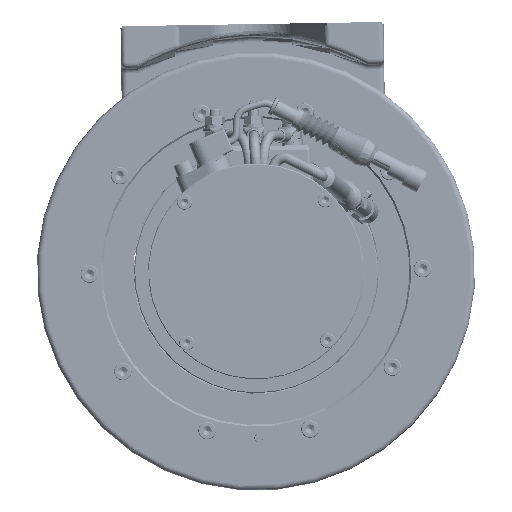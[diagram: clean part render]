
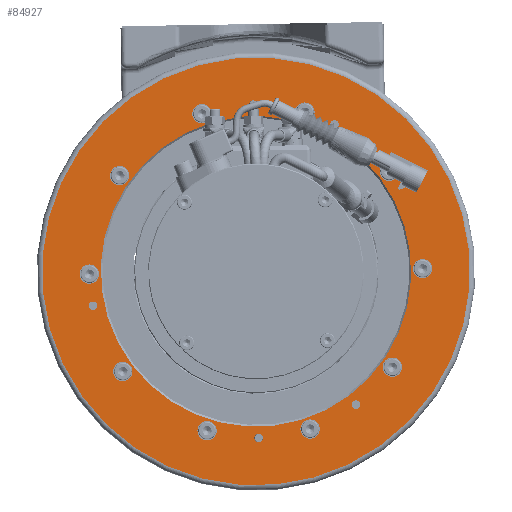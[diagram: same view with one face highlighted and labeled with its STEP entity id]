
A CAD part, front view. The second image highlights one B-rep face of the part: STEP entity #84927.
In plain terms, the highlighted planar face has unit normal (0, -1, 0).
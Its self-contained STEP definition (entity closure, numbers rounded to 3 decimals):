
#2087=FACE_BOUND('',#29443,.T.);
#2088=FACE_BOUND('',#29444,.T.);
#2089=FACE_BOUND('',#29445,.T.);
#2090=FACE_BOUND('',#29446,.T.);
#2091=FACE_BOUND('',#29447,.T.);
#2092=FACE_BOUND('',#29448,.T.);
#2093=FACE_BOUND('',#29449,.T.);
#2094=FACE_BOUND('',#29450,.T.);
#2095=FACE_BOUND('',#29451,.T.);
#2096=FACE_BOUND('',#29452,.T.);
#2097=FACE_BOUND('',#29453,.T.);
#2098=FACE_BOUND('',#29454,.T.);
#2099=FACE_BOUND('',#29455,.T.);
#2100=FACE_BOUND('',#29456,.T.);
#2101=FACE_BOUND('',#29457,.T.);
#2102=FACE_BOUND('',#29458,.T.);
#4856=PLANE('',#92812);
#24260=FACE_OUTER_BOUND('',#29442,.T.);
#29442=EDGE_LOOP('',(#75526));
#29443=EDGE_LOOP('',(#75527));
#29444=EDGE_LOOP('',(#75528));
#29445=EDGE_LOOP('',(#75529));
#29446=EDGE_LOOP('',(#75530));
#29447=EDGE_LOOP('',(#75531));
#29448=EDGE_LOOP('',(#75532));
#29449=EDGE_LOOP('',(#75533));
#29450=EDGE_LOOP('',(#75534));
#29451=EDGE_LOOP('',(#75535));
#29452=EDGE_LOOP('',(#75536));
#29453=EDGE_LOOP('',(#75537));
#29454=EDGE_LOOP('',(#75538));
#29455=EDGE_LOOP('',(#75539));
#29456=EDGE_LOOP('',(#75540));
#29457=EDGE_LOOP('',(#75541));
#29458=EDGE_LOOP('',(#75542));
#33190=CIRCLE('',#92761,122.);
#33194=CIRCLE('',#92768,2.5);
#33197=CIRCLE('',#92772,2.5);
#33227=CIRCLE('',#92811,88.5);
#33228=CIRCLE('',#92813,2.459);
#33229=CIRCLE('',#92814,5.5);
#33230=CIRCLE('',#92815,5.5);
#33231=CIRCLE('',#92816,5.5);
#33232=CIRCLE('',#92817,5.5);
#33233=CIRCLE('',#92818,5.5);
#33234=CIRCLE('',#92819,5.5);
#33235=CIRCLE('',#92820,5.5);
#33236=CIRCLE('',#92821,5.5);
#33237=CIRCLE('',#92822,5.5);
#33238=CIRCLE('',#92823,5.5);
#33239=CIRCLE('',#92824,2.459);
#33240=CIRCLE('',#92825,2.459);
#40682=VERTEX_POINT('',#156076);
#40685=VERTEX_POINT('',#156088);
#40688=VERTEX_POINT('',#156096);
#40718=VERTEX_POINT('',#156171);
#40719=VERTEX_POINT('',#156175);
#40720=VERTEX_POINT('',#156177);
#40721=VERTEX_POINT('',#156179);
#40722=VERTEX_POINT('',#156181);
#40723=VERTEX_POINT('',#156183);
#40724=VERTEX_POINT('',#156185);
#40725=VERTEX_POINT('',#156187);
#40726=VERTEX_POINT('',#156189);
#40727=VERTEX_POINT('',#156191);
#40728=VERTEX_POINT('',#156193);
#40729=VERTEX_POINT('',#156195);
#40730=VERTEX_POINT('',#156197);
#40731=VERTEX_POINT('',#156199);
#52300=EDGE_CURVE('',#40682,#40682,#33190,.T.);
#52305=EDGE_CURVE('',#40685,#40685,#33194,.T.);
#52309=EDGE_CURVE('',#40688,#40688,#33197,.T.);
#52345=EDGE_CURVE('',#40718,#40718,#33227,.T.);
#52347=EDGE_CURVE('',#40719,#40719,#33228,.T.);
#52348=EDGE_CURVE('',#40720,#40720,#33229,.T.);
#52349=EDGE_CURVE('',#40721,#40721,#33230,.T.);
#52350=EDGE_CURVE('',#40722,#40722,#33231,.T.);
#52351=EDGE_CURVE('',#40723,#40723,#33232,.T.);
#52352=EDGE_CURVE('',#40724,#40724,#33233,.T.);
#52353=EDGE_CURVE('',#40725,#40725,#33234,.T.);
#52354=EDGE_CURVE('',#40726,#40726,#33235,.T.);
#52355=EDGE_CURVE('',#40727,#40727,#33236,.T.);
#52356=EDGE_CURVE('',#40728,#40728,#33237,.T.);
#52357=EDGE_CURVE('',#40729,#40729,#33238,.T.);
#52358=EDGE_CURVE('',#40730,#40730,#33239,.T.);
#52359=EDGE_CURVE('',#40731,#40731,#33240,.T.);
#75526=ORIENTED_EDGE('',*,*,#52300,.F.);
#75527=ORIENTED_EDGE('',*,*,#52347,.T.);
#75528=ORIENTED_EDGE('',*,*,#52348,.T.);
#75529=ORIENTED_EDGE('',*,*,#52349,.T.);
#75530=ORIENTED_EDGE('',*,*,#52350,.T.);
#75531=ORIENTED_EDGE('',*,*,#52351,.T.);
#75532=ORIENTED_EDGE('',*,*,#52352,.T.);
#75533=ORIENTED_EDGE('',*,*,#52353,.T.);
#75534=ORIENTED_EDGE('',*,*,#52354,.T.);
#75535=ORIENTED_EDGE('',*,*,#52355,.T.);
#75536=ORIENTED_EDGE('',*,*,#52356,.T.);
#75537=ORIENTED_EDGE('',*,*,#52357,.T.);
#75538=ORIENTED_EDGE('',*,*,#52305,.T.);
#75539=ORIENTED_EDGE('',*,*,#52309,.T.);
#75540=ORIENTED_EDGE('',*,*,#52358,.T.);
#75541=ORIENTED_EDGE('',*,*,#52359,.T.);
#75542=ORIENTED_EDGE('',*,*,#52345,.F.);
#84927=ADVANCED_FACE('',(#24260,#2087,#2088,#2089,#2090,#2091,#2092,#2093,
#2094,#2095,#2096,#2097,#2098,#2099,#2100,#2101,#2102),#4856,.T.);
#92761=AXIS2_PLACEMENT_3D('',#156078,#114712,#114713);
#92768=AXIS2_PLACEMENT_3D('',#156089,#114727,#114728);
#92772=AXIS2_PLACEMENT_3D('',#156097,#114736,#114737);
#92811=AXIS2_PLACEMENT_3D('',#156172,#114820,#114821);
#92812=AXIS2_PLACEMENT_3D('',#156174,#114823,#114824);
#92813=AXIS2_PLACEMENT_3D('',#156176,#114825,#114826);
#92814=AXIS2_PLACEMENT_3D('',#156178,#114827,#114828);
#92815=AXIS2_PLACEMENT_3D('',#156180,#114829,#114830);
#92816=AXIS2_PLACEMENT_3D('',#156182,#114831,#114832);
#92817=AXIS2_PLACEMENT_3D('',#156184,#114833,#114834);
#92818=AXIS2_PLACEMENT_3D('',#156186,#114835,#114836);
#92819=AXIS2_PLACEMENT_3D('',#156188,#114837,#114838);
#92820=AXIS2_PLACEMENT_3D('',#156190,#114839,#114840);
#92821=AXIS2_PLACEMENT_3D('',#156192,#114841,#114842);
#92822=AXIS2_PLACEMENT_3D('',#156194,#114843,#114844);
#92823=AXIS2_PLACEMENT_3D('',#156196,#114845,#114846);
#92824=AXIS2_PLACEMENT_3D('',#156198,#114847,#114848);
#92825=AXIS2_PLACEMENT_3D('',#156200,#114849,#114850);
#114712=DIRECTION('center_axis',(0.,1.,
0.));
#114713=DIRECTION('ref_axis',(-0.582,0.,0.813));
#114727=DIRECTION('center_axis',(0.,1.,
0.));
#114728=DIRECTION('ref_axis',(0.799,0.,0.601));
#114736=DIRECTION('center_axis',(0.,1.,
0.));
#114737=DIRECTION('ref_axis',(-0.799,0.,-0.601));
#114820=DIRECTION('center_axis',(0.,-1.,
0.));
#114821=DIRECTION('ref_axis',(0.601,0.,-0.799));
#114823=DIRECTION('center_axis',(0.,-1.,
0.));
#114824=DIRECTION('ref_axis',(0.601,0.,-0.799));
#114825=DIRECTION('center_axis',(0.,1.,
0.));
#114826=DIRECTION('ref_axis',(0.799,0.,0.601));
#114827=DIRECTION('center_axis',(0.,1.,
0.));
#114828=DIRECTION('ref_axis',(0.799,0.,0.601));
#114829=DIRECTION('center_axis',(0.,1.,
0.));
#114830=DIRECTION('ref_axis',(0.294,0.,0.956));
#114831=DIRECTION('center_axis',(0.,1.,
0.));
#114832=DIRECTION('ref_axis',(1.,0.,0.016));
#114833=DIRECTION('center_axis',(0.,1.,
0.));
#114834=DIRECTION('ref_axis',(0.818,0.,-0.575));
#114835=DIRECTION('center_axis',(0.,1.,
0.));
#114836=DIRECTION('ref_axis',(0.324,0.,-0.946));
#114837=DIRECTION('center_axis',(0.,1.,
0.));
#114838=DIRECTION('ref_axis',(-0.294,0.,-0.956));
#114839=DIRECTION('center_axis',(0.,1.,
0.));
#114840=DIRECTION('ref_axis',(-0.799,0.,-0.601));
#114841=DIRECTION('center_axis',(0.,1.,
0.));
#114842=DIRECTION('ref_axis',(-1.,0.,-0.016));
#114843=DIRECTION('center_axis',(0.,1.,
0.));
#114844=DIRECTION('ref_axis',(-0.818,0.,0.575));
#114845=DIRECTION('center_axis',(0.,1.,
0.));
#114846=DIRECTION('ref_axis',(-0.324,0.,0.946));
#114847=DIRECTION('center_axis',(0.,1.,
0.));
#114848=DIRECTION('ref_axis',(0.799,0.,0.601));
#114849=DIRECTION('center_axis',(0.,1.,
0.));
#114850=DIRECTION('ref_axis',(0.799,0.,0.601));
#156076=CARTESIAN_POINT('',(-401.314,-140.25,1205.677));
#156078=CARTESIAN_POINT('Origin',(-472.291,-140.249,1304.906));
#156088=CARTESIAN_POINT('',(-475.829,-140.249,1398.391));
#156089=CARTESIAN_POINT('Origin',(-473.831,-140.249,1399.893));
#156096=CARTESIAN_POINT('',(-468.753,-140.25,1211.42));
#156097=CARTESIAN_POINT('Origin',(-470.751,-140.25,1209.918));
#156171=CARTESIAN_POINT('',(-525.464,-140.249,1375.651));
#156172=CARTESIAN_POINT('Origin',(-472.291,-140.249,1304.906));
#156174=CARTESIAN_POINT('Origin',(-530.871,-140.249,1382.846));
#156175=CARTESIAN_POINT('',(-417.178,-140.25,1227.487));
#156176=CARTESIAN_POINT('Origin',(-415.213,-140.25,1228.964));
#156177=CARTESIAN_POINT('',(-445.871,-140.25,1211.738));
#156178=CARTESIAN_POINT('Origin',(-441.474,-140.25,1215.043));
#156179=CARTESIAN_POINT('',(-396.154,-140.25,1245.061));
#156180=CARTESIAN_POINT('Origin',(-394.54,-140.25,1250.319));
#156181=CARTESIAN_POINT('',(-505.679,-140.25,1214.002));
#156182=CARTESIAN_POINT('Origin',(-500.179,-140.25,1214.091));
#156183=CARTESIAN_POINT('',(-552.734,-140.25,1250.988));
#156184=CARTESIAN_POINT('Origin',(-548.233,-140.25,1247.828));
#156185=CARTESIAN_POINT('',(-569.063,-140.249,1308.568));
#156186=CARTESIAN_POINT('Origin',(-567.279,-140.249,1303.366));
#156187=CARTESIAN_POINT('',(-548.428,-140.249,1364.75));
#156188=CARTESIAN_POINT('Origin',(-550.043,-140.249,1359.492));
#156189=CARTESIAN_POINT('',(-498.711,-140.249,1398.073));
#156190=CARTESIAN_POINT('Origin',(-503.108,-140.249,1394.768));
#156191=CARTESIAN_POINT('',(-438.903,-140.249,1395.809));
#156192=CARTESIAN_POINT('Origin',(-444.403,-140.249,1395.72));
#156193=CARTESIAN_POINT('',(-391.848,-140.249,1358.823));
#156194=CARTESIAN_POINT('Origin',(-396.35,-140.249,1361.983));
#156195=CARTESIAN_POINT('',(-375.519,-140.249,1301.243));
#156196=CARTESIAN_POINT('Origin',(-377.303,-140.249,1306.445));
#156197=CARTESIAN_POINT('',(-429.552,-140.249,1387.253));
#156198=CARTESIAN_POINT('Origin',(-427.587,-140.249,1388.73));
#156199=CARTESIAN_POINT('',(-567.205,-140.249,1283.793));
#156200=CARTESIAN_POINT('Origin',(-565.24,-140.249,1285.27));
